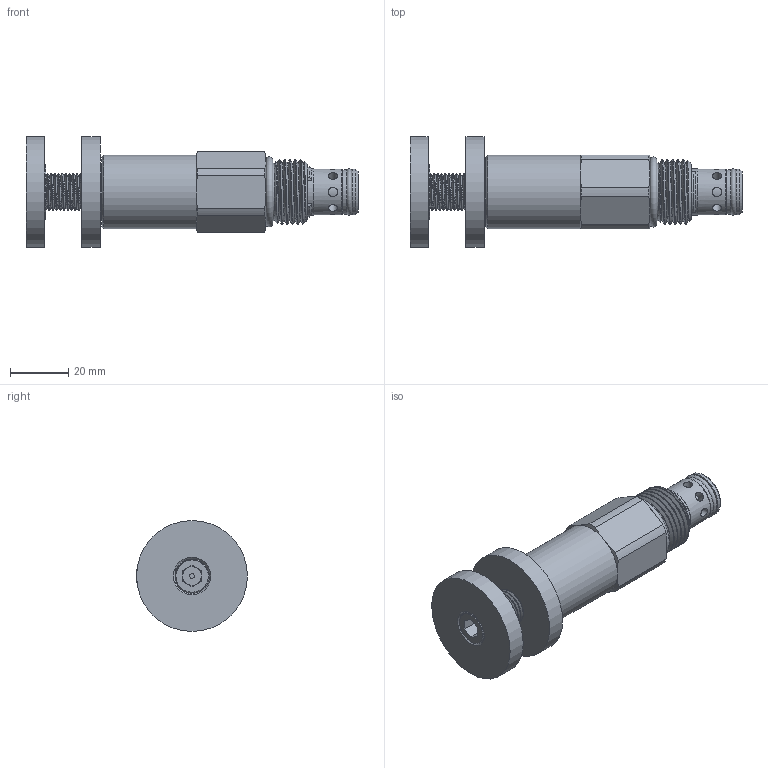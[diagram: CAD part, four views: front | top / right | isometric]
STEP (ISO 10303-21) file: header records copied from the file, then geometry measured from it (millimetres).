
FILE_DESCRIPTION(/* description */ ('DE-RVR-0K-4000'),/* implementation_level */ '2;1');
FILE_NAME(/* name */ 'R:\Solids\Valve Solids exterior\Solids (.STEP)\DERVR0K-3D Full.stp',/* time_stamp */ '2023-11-13T14:03:53-06:00',/* author */ ('jared'),/* organization */ (''),/* preprocessor_version */ 'ST-DEVELOPER v17',/* originating_system */ 'Autodesk Inventor 2019',/* authorisation */ '');
FILE_SCHEMA (('AUTOMOTIVE_DESIGN { 1 0 10303 214 3 1 1 }'));
Length unit declared in the file: inch
Products named in the file (1): 85002747
Bounding box: 114.07 x 38.1 x 38.1 mm (x, y, z)
Volume: 53256.3 mm3; surface area: 15796.4 mm2
Topology: 1 solids, 2 shells, 181 faces, 586 edges, 432 vertices
Faces by surface type: cylinder 75, plane 55, cone 25, bspline 22, torus 4
Full cylindrical faces by diameter (mm): 1.6 x1, 3.175 x8, 3.683 x2, 6.35 x1, 6.388 x1, 9.53 x1, 11.328 x1, 12.7 x9, 12.992 x3, 15.392 x1, 15.761 x2, 15.939 x1, 17.399 x1, 19.05 x2, 19.621 x2, 22.225 x4, 25.4 x1, 38.1 x2
Entity records: 19269 total; most frequent: CARTESIAN_POINT 14394, ORIENTED_EDGE 1170, DIRECTION 714, EDGE_CURVE 585, VERTEX_POINT 432, AXIS2_PLACEMENT_3D 301, B_SPLINE_CURVE_WITH_KNOTS 295, EDGE_LOOP 211
